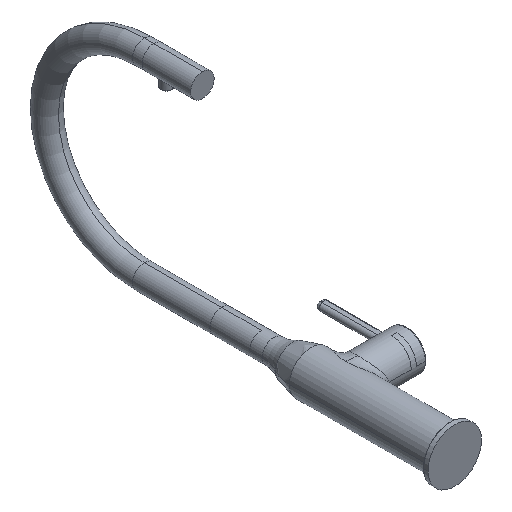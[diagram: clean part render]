
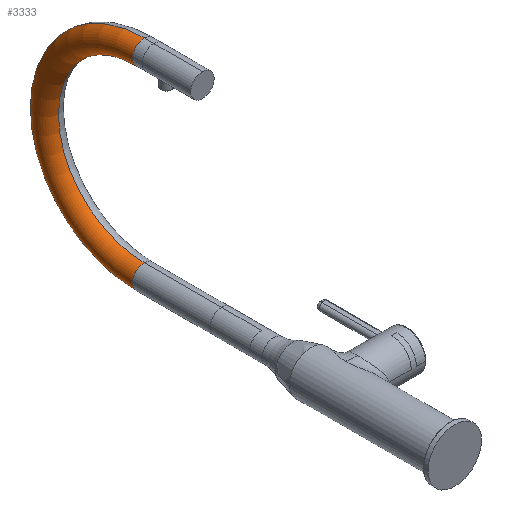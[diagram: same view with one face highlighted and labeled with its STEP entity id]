
A CAD part, isometric view. The second image highlights one B-rep face of the part: STEP entity #3333.
In plain terms, the highlighted toroidal (fillet/blend) face has major radius 100 mm and minor radius 11.95 mm.
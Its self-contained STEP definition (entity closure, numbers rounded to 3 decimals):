
#956=CARTESIAN_POINT('',(0.,314.3,100.));
#957=DIRECTION('',(1.,0.,0.));
#958=DIRECTION('',(0.,0.,-1.));
#959=AXIS2_PLACEMENT_3D('',#956,#957,#958);
#961=CARTESIAN_POINT('',(0.,314.3,0.));
#962=DIRECTION('',(0.,1.,0.));
#963=DIRECTION('',(0.,0.,-1.));
#964=AXIS2_PLACEMENT_3D('',#961,#962,#963);
#966=CARTESIAN_POINT('',(0.,314.3,100.));
#967=DIRECTION('',(1.,0.,0.));
#968=DIRECTION('',(0.,0.,-1.));
#969=AXIS2_PLACEMENT_3D('',#966,#967,#968);
#976=CARTESIAN_POINT('',(0.,314.3,200.));
#977=DIRECTION('',(0.,-1.,0.));
#978=DIRECTION('',(0.,0.,1.));
#979=AXIS2_PLACEMENT_3D('',#976,#977,#978);
#1516=CARTESIAN_POINT('',(0.,314.3,-11.95));
#1517=CARTESIAN_POINT('',(0.,314.3,11.95));
#1518=VERTEX_POINT('',#1516);
#1519=VERTEX_POINT('',#1517);
#1520=CARTESIAN_POINT('',(0.,314.3,211.95));
#1521=CARTESIAN_POINT('',(0.,314.3,188.05));
#1522=VERTEX_POINT('',#1520);
#1523=VERTEX_POINT('',#1521);
#3321=CARTESIAN_POINT('',(0.,314.3,100.));
#3322=DIRECTION('',(1.,0.,0.));
#3323=DIRECTION('',(0.,0.,1.));
#3324=AXIS2_PLACEMENT_3D('',#3321,#3322,#3323);
#3325=TOROIDAL_SURFACE('',#3324,100.,11.95);
#3326=ORIENTED_EDGE('',*,*,#3265,.F.);
#3327=ORIENTED_EDGE('',*,*,#3309,.T.);
#3329=ORIENTED_EDGE('',*,*,#3328,.T.);
#3330=ORIENTED_EDGE('',*,*,#3305,.F.);
#3331=EDGE_LOOP('',(#3326,#3327,#3329,#3330));
#3332=FACE_OUTER_BOUND('',#3331,.F.);
#960=CIRCLE('',#959,88.05);
#965=CIRCLE('',#964,11.95);
#970=CIRCLE('',#969,111.95);
#980=CIRCLE('',#979,11.95);
#3265=EDGE_CURVE('',#1518,#1519,#965,.T.);
#3305=EDGE_CURVE('',#1519,#1523,#960,.T.);
#3309=EDGE_CURVE('',#1518,#1522,#970,.T.);
#3328=EDGE_CURVE('',#1522,#1523,#980,.T.);
#3333=ADVANCED_FACE('',(#3332),#3325,.T.);
